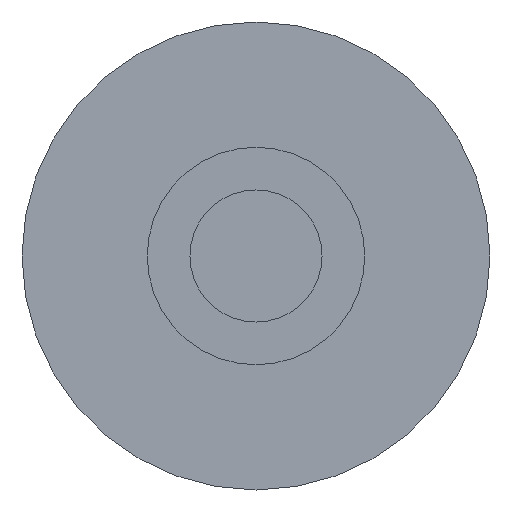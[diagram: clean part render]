
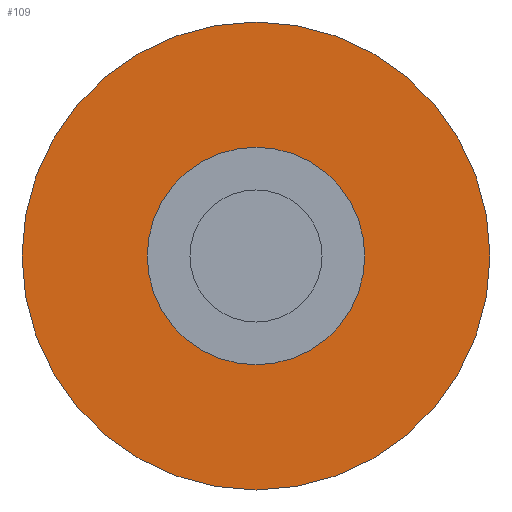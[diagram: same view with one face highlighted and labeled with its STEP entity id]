
A CAD part, left-side view. The second image highlights one B-rep face of the part: STEP entity #109.
In plain terms, the highlighted planar face has unit normal (-1, 0, 0).
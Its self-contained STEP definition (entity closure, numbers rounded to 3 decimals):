
#31 = CYLINDRICAL_SURFACE('',#32,1.7);
#32 = AXIS2_PLACEMENT_3D('',#33,#34,#35);
#33 = CARTESIAN_POINT('',(18.7,0.,-10.9));
#34 = DIRECTION('',(1.,0.,0.));
#35 = DIRECTION('',(-0.,0.,1.));
#56 = VERTEX_POINT('',#57);
#57 = CARTESIAN_POINT('',(18.7,0.,-9.2));
#78 = EDGE_CURVE('',#56,#56,#79,.T.);
#79 = SURFACE_CURVE('',#80,(#85,#92),.PCURVE_S1.);
#80 = CIRCLE('',#81,1.7);
#81 = AXIS2_PLACEMENT_3D('',#82,#83,#84);
#82 = CARTESIAN_POINT('',(18.7,0.,-10.9));
#83 = DIRECTION('',(1.,0.,0.));
#84 = DIRECTION('',(-0.,0.,1.));
#85 = PCURVE('',#31,#86);
#86 = DEFINITIONAL_REPRESENTATION('',(#87),#91);
#87 = LINE('',#88,#89);
#88 = CARTESIAN_POINT('',(0.,0.));
#89 = VECTOR('',#90,1.);
#90 = DIRECTION('',(1.,0.));
#91 = ( GEOMETRIC_REPRESENTATION_CONTEXT(2) 
PARAMETRIC_REPRESENTATION_CONTEXT() REPRESENTATION_CONTEXT('2D SPACE',''
  ) );
#92 = PCURVE('',#93,#98);
#93 = PLANE('',#94);
#94 = AXIS2_PLACEMENT_3D('',#95,#96,#97);
#95 = CARTESIAN_POINT('',(18.7,0.,-10.9));
#96 = DIRECTION('',(1.,0.,0.));
#97 = DIRECTION('',(-0.,0.,1.));
#98 = DEFINITIONAL_REPRESENTATION('',(#99),#103);
#99 = CIRCLE('',#100,1.7);
#100 = AXIS2_PLACEMENT_2D('',#101,#102);
#101 = CARTESIAN_POINT('',(0.,0.));
#102 = DIRECTION('',(1.,0.));
#103 = ( GEOMETRIC_REPRESENTATION_CONTEXT(2) 
PARAMETRIC_REPRESENTATION_CONTEXT() REPRESENTATION_CONTEXT('2D SPACE',''
  ) );
#109 = ADVANCED_FACE('',(#110,#113),#93,.F.);
#110 = FACE_BOUND('',#111,.F.);
#111 = EDGE_LOOP('',(#112));
#112 = ORIENTED_EDGE('',*,*,#78,.T.);
#113 = FACE_BOUND('',#114,.F.);
#114 = EDGE_LOOP('',(#115));
#115 = ORIENTED_EDGE('',*,*,#116,.F.);
#116 = EDGE_CURVE('',#117,#117,#119,.T.);
#117 = VERTEX_POINT('',#118);
#118 = CARTESIAN_POINT('',(18.7,0.,-10.11));
#119 = SURFACE_CURVE('',#120,(#125,#132),.PCURVE_S1.);
#120 = CIRCLE('',#121,0.79);
#121 = AXIS2_PLACEMENT_3D('',#122,#123,#124);
#122 = CARTESIAN_POINT('',(18.7,0.,-10.9));
#123 = DIRECTION('',(1.,0.,0.));
#124 = DIRECTION('',(-0.,0.,1.));
#125 = PCURVE('',#93,#126);
#126 = DEFINITIONAL_REPRESENTATION('',(#127),#131);
#127 = CIRCLE('',#128,0.79);
#128 = AXIS2_PLACEMENT_2D('',#129,#130);
#129 = CARTESIAN_POINT('',(0.,0.));
#130 = DIRECTION('',(1.,0.));
#131 = ( GEOMETRIC_REPRESENTATION_CONTEXT(2) 
PARAMETRIC_REPRESENTATION_CONTEXT() REPRESENTATION_CONTEXT('2D SPACE',''
  ) );
#132 = PCURVE('',#133,#138);
#133 = CYLINDRICAL_SURFACE('',#134,0.79);
#134 = AXIS2_PLACEMENT_3D('',#135,#136,#137);
#135 = CARTESIAN_POINT('',(15.,0.,-10.9));
#136 = DIRECTION('',(1.,0.,0.));
#137 = DIRECTION('',(-0.,0.,1.));
#138 = DEFINITIONAL_REPRESENTATION('',(#139),#143);
#139 = LINE('',#140,#141);
#140 = CARTESIAN_POINT('',(0.,3.7));
#141 = VECTOR('',#142,1.);
#142 = DIRECTION('',(1.,0.));
#143 = ( GEOMETRIC_REPRESENTATION_CONTEXT(2) 
PARAMETRIC_REPRESENTATION_CONTEXT() REPRESENTATION_CONTEXT('2D SPACE',''
  ) );
